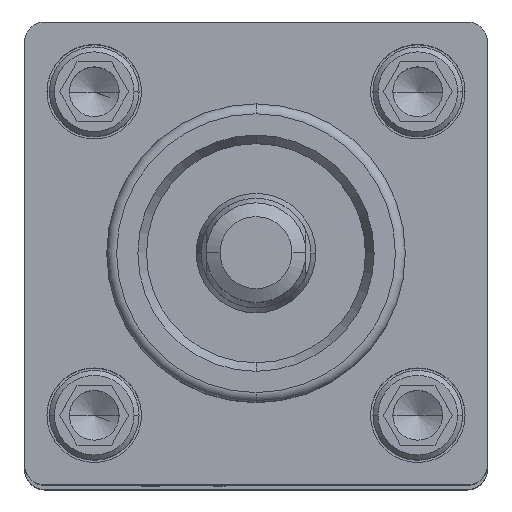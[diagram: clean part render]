
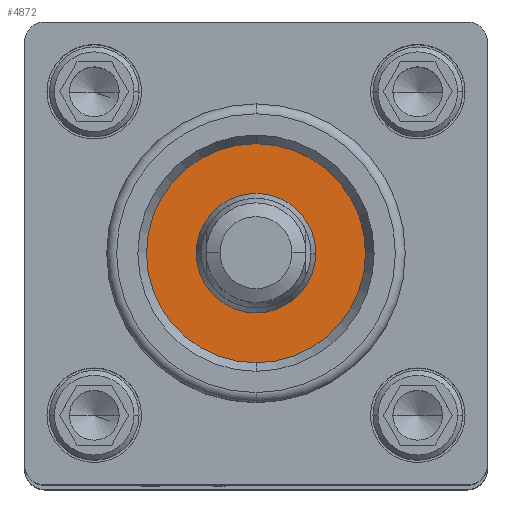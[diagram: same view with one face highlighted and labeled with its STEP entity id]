
A CAD part, top view. The second image highlights one B-rep face of the part: STEP entity #4872.
In plain terms, the highlighted planar face has unit normal (0, 0, 1).
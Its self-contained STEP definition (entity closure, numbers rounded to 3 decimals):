
#281 = DIRECTION ( 'NONE',  ( 0., 1., 0. ) ) ;
#555 = DIRECTION ( 'NONE',  ( 0., 0., -1. ) ) ;
#564 = EDGE_CURVE ( 'NONE', #7265, #4734, #7971, .T. ) ;
#736 = ORIENTED_EDGE ( 'NONE', *, *, #564, .F. ) ;
#1053 = PLANE ( 'NONE',  #2592 ) ;
#1918 = ORIENTED_EDGE ( 'NONE', *, *, #4013, .F. ) ;
#2325 = EDGE_LOOP ( 'NONE', ( #736, #8682 ) ) ;
#2423 = DIRECTION ( 'NONE',  ( 0., 1., 0. ) ) ;
#2527 = EDGE_CURVE ( 'NONE', #4734, #7265, #10867, .T. ) ;
#2592 = AXIS2_PLACEMENT_3D ( 'NONE', #3929, #8494, #3850 ) ;
#2609 = CIRCLE ( 'NONE', #6306, 6. ) ;
#3070 = CARTESIAN_POINT ( 'NONE',  ( 0., 0., 92.25 ) ) ;
#3850 = DIRECTION ( 'NONE',  ( 0., 1., 0. ) ) ;
#3929 = CARTESIAN_POINT ( 'NONE',  ( 0., 0., 92.25 ) ) ;
#4013 = EDGE_CURVE ( 'NONE', #7974, #9875, #10363, .T. ) ;
#4139 = CARTESIAN_POINT ( 'NONE',  ( 0., 6., 92.25 ) ) ;
#4655 = CARTESIAN_POINT ( 'NONE',  ( 0., -11., 92.25 ) ) ;
#4717 = AXIS2_PLACEMENT_3D ( 'NONE', #3070, #5856, #281 ) ;
#4734 = VERTEX_POINT ( 'NONE', #4655 ) ;
#4872 = ADVANCED_FACE ( 'NONE', ( #10038, #10489 ), #1053, .F. ) ;
#5102 = CARTESIAN_POINT ( 'NONE',  ( 0., 0., 92.25 ) ) ;
#5155 = CARTESIAN_POINT ( 'NONE',  ( 0., -6., 92.25 ) ) ;
#5856 = DIRECTION ( 'NONE',  ( 0., 0., -1. ) ) ;
#5992 = DIRECTION ( 'NONE',  ( 0., -1., 0. ) ) ;
#6039 = DIRECTION ( 'NONE',  ( 0., 0., 1. ) ) ;
#6306 = AXIS2_PLACEMENT_3D ( 'NONE', #5102, #6039, #11687 ) ;
#6933 = CARTESIAN_POINT ( 'NONE',  ( 0., 0., 92.25 ) ) ;
#7265 = VERTEX_POINT ( 'NONE', #10861 ) ;
#7533 = ORIENTED_EDGE ( 'NONE', *, *, #8626, .F. ) ;
#7971 = CIRCLE ( 'NONE', #8196, 11. ) ;
#7974 = VERTEX_POINT ( 'NONE', #4139 ) ;
#8196 = AXIS2_PLACEMENT_3D ( 'NONE', #6933, #555, #2423 ) ;
#8255 = AXIS2_PLACEMENT_3D ( 'NONE', #10573, #11525, #5992 ) ;
#8494 = DIRECTION ( 'NONE',  ( 0., 0., -1. ) ) ;
#8626 = EDGE_CURVE ( 'NONE', #9875, #7974, #2609, .T. ) ;
#8682 = ORIENTED_EDGE ( 'NONE', *, *, #2527, .F. ) ;
#9769 = EDGE_LOOP ( 'NONE', ( #7533, #1918 ) ) ;
#9875 = VERTEX_POINT ( 'NONE', #5155 ) ;
#10038 = FACE_BOUND ( 'NONE', #9769, .T. ) ;
#10363 = CIRCLE ( 'NONE', #8255, 6. ) ;
#10489 = FACE_OUTER_BOUND ( 'NONE', #2325, .T. ) ;
#10573 = CARTESIAN_POINT ( 'NONE',  ( 0., 0., 92.25 ) ) ;
#10861 = CARTESIAN_POINT ( 'NONE',  ( 0., 11., 92.25 ) ) ;
#10867 = CIRCLE ( 'NONE', #4717, 11. ) ;
#11525 = DIRECTION ( 'NONE',  ( 0., 0., 1. ) ) ;
#11687 = DIRECTION ( 'NONE',  ( 0., -1., 0. ) ) ;
